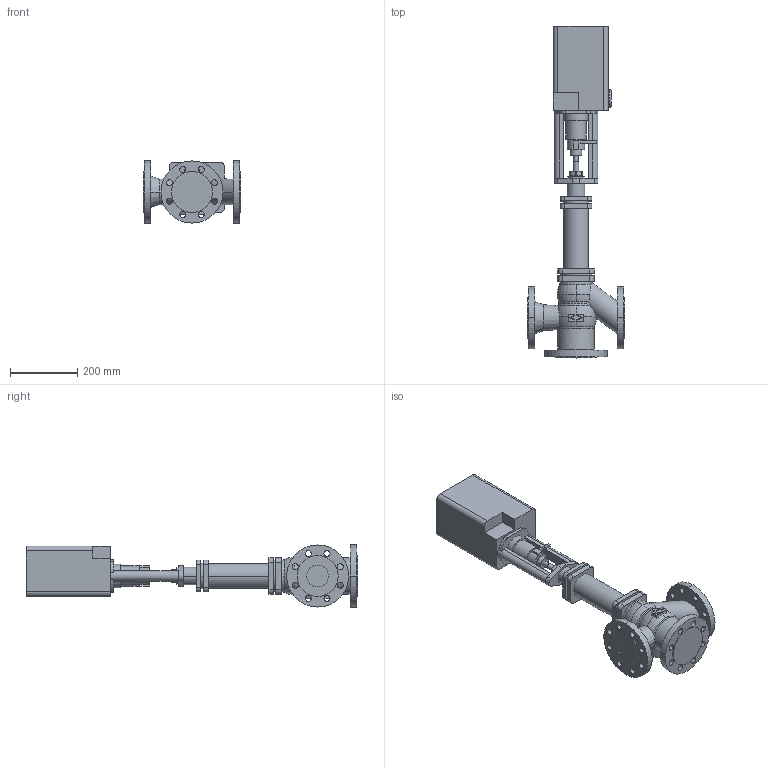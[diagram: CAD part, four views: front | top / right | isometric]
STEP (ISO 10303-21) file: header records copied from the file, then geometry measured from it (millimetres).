
FILE_DESCRIPTION(('OneSpaceDesigner STEP Export'),'2;1');
FILE_NAME('c000002438.stp','2006-09-21T11:43:29',(''),(''),'OneSpace Designer STEP processor for AP214 (Solid Model)','OneSpace Designer 13.20A 18-Aug-2005 (C) CoCreate Software GmbH','');
FILE_SCHEMA(('AUTOMOTIVE_DESIGN { 1 0 10303 214 1 1 1 1 }'));
Length unit declared in the file: millimetre
Products named in the file (2): 1; 2
Bounding box: 290 x 989 x 185 mm (x, y, z)
Volume: 12846536.5 mm3; surface area: 705689.9 mm2
Topology: 2 solids, 2 shells, 275 faces, 713 edges, 472 vertices
Faces by surface type: cylinder 138, plane 110, torus 23, cone 4
Entity records: 8001 total; most frequent: CARTESIAN_POINT 1616, ORIENTED_EDGE 1426, DIRECTION 1187, EDGE_CURVE 713, VERTEX_POINT 472, AXIS2_PLACEMENT_3D 423, EDGE_LOOP 353, VECTOR 341
